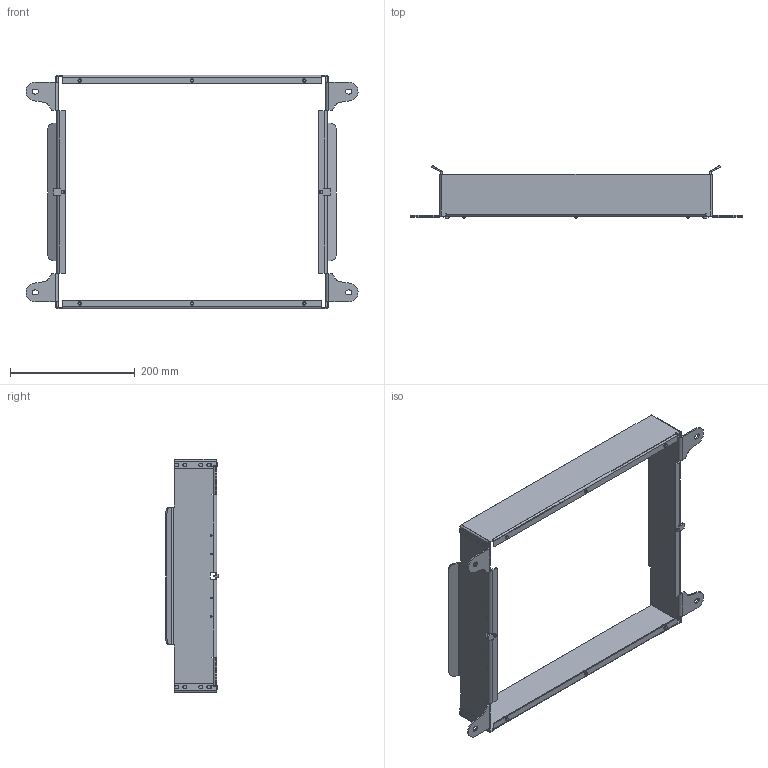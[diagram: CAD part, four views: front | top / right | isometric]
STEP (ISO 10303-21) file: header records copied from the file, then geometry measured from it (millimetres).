
FILE_DESCRIPTION (( 'STEP AP214' ), '1' );
FILE_NAME ('Asyril_PLATFORM FRAME H=68mm - 530_000.102.643_(option).STEP', '2019-10-17T13:27:42', ( 'Standard' ), ( '' ), 'SwSTEP 2.0', 'SolidWorks 2017', '' );
FILE_SCHEMA (( 'AUTOMOTIVE_DESIGN' ));
Length unit declared in the file: millimetre
Products named in the file (1): Asyril_PLATFORM FRAME H=68mm - 530_000.102.643_(option)
Bounding box: 531.9 x 84.51 x 374 mm (x, y, z)
Volume: 283303.4 mm3; surface area: 287126.6 mm2
Topology: 1 solids, 1 shells, 444 faces, 1092 edges, 676 vertices
Faces by surface type: plane 220, cylinder 192, torus 16, cone 16
Entity records: 14404 total; most frequent: DIRECTION 2430, CARTESIAN_POINT 2213, ORIENTED_EDGE 2184, EDGE_CURVE 1092, AXIS2_PLACEMENT_3D 893, VERTEX_POINT 676, VECTOR 644, LINE 644
